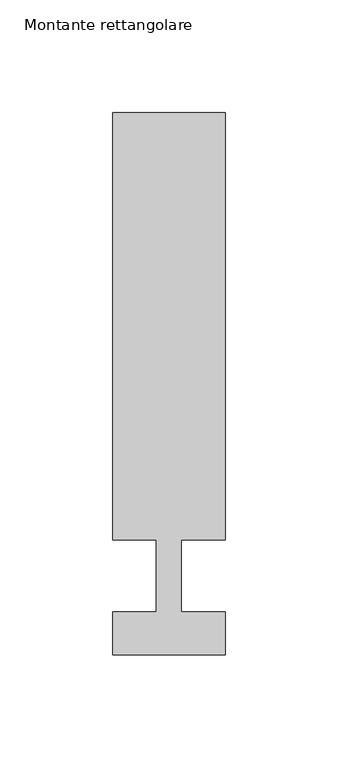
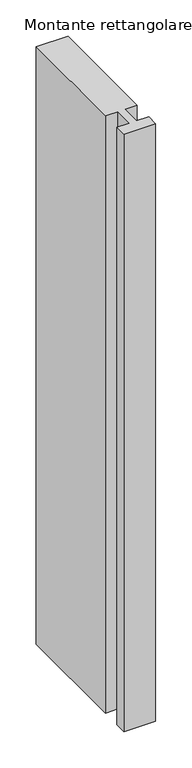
"""IFC4 building model written with IfcOpenShell, lengths in millimetres: member geometry, Montante rettangolare : Aluk_SL50_Traverso K746_vetro 32."""

from ifc_helpers import new_model, si_unit, frame, origin, place, context, project, spatial, polyline, outline, extrude, source, transform, mapped, element, save


def montante_rettangolare_3d79a1b0(model_context):
    return source(origin(), model_context, "Body", "SweptSolid", [
        extrude(outline(polyline([(-25.0, 206.0), (25.0, 206.0), (25.0, 16.0), (5.5, 16.0), (5.5, -16.005185), (25.0, -16.005185), (25.0, -35.0022918), (-25.0, -35.0022918), (-25.0, -16.005185), (-5.5, -16.005185), (-5.5, 16.0), (-25.0, 16.0), (-25.0, 206.0)])), frame((0.0, 0.0, -999.6428571), z_axis=(0.0, 0.0, 1.0), x_axis=(1.0, 0.0, 0.0)), (0.0, 0.0, 1.0), 999.6428571),
    ])


if __name__ == "__main__":
    model = new_model("IFC4")
    model_context = context("Model", 3, world=origin())
    ifc_project = project(units=[si_unit("LENGTHUNIT", "METRE", prefix="MILLI")], contexts=[model_context])
    site = spatial("IfcSite", under=ifc_project)
    building = spatial("IfcBuilding", under=site)
    placement = place(None, origin())
    montante_rettangolare_shape = montante_rettangolare_3d79a1b0(model_context)
    element("IfcMember", 1, ObjectType="Montante rettangolare : Aluk_SL50_Traverso K746_vetro 32", at=placement, inside=building, context=model_context, shape_type="MappedRepresentation", body=[
        mapped(montante_rettangolare_shape, transform((0.0, 0.0, 0.0), x_axis=(1.0, 0.0, 0.0), y_axis=(0.0, 1.0, 0.0), z_axis=(0.0, 0.0, 1.0))),
    ])
    save(model, "model.ifc")
